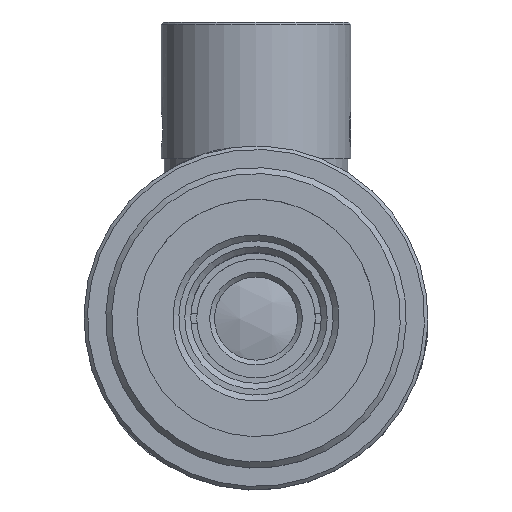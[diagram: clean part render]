
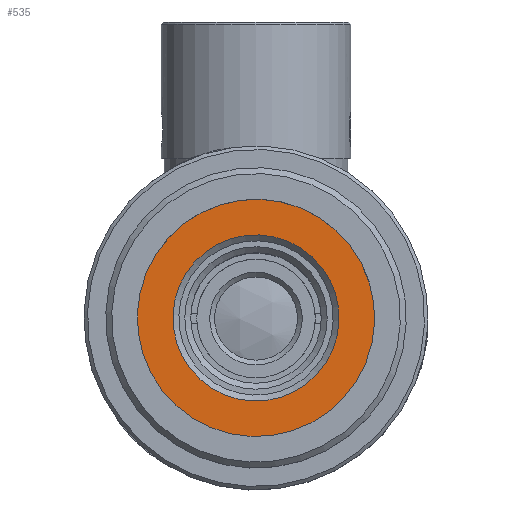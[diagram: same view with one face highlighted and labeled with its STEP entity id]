
A CAD part, top view. The second image highlights one B-rep face of the part: STEP entity #535.
In plain terms, the highlighted planar face has unit normal (0, 0, 1).
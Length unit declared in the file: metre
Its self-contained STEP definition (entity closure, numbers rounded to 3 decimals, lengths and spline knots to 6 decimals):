
#535=ADVANCED_FACE('NONE',(#1442,#1443),#1444,.F.);
#1442=FACE_BOUND('',#2889,.T.);
#1443=FACE_OUTER_BOUND('',#2890,.T.);
#1444=PLANE('',#2891);
#2889=EDGE_LOOP('',(#4617));
#2890=EDGE_LOOP('',(#4618));
#2891=AXIS2_PLACEMENT_3D('',#4619,#4620,#4621);
#4617=ORIENTED_EDGE('',*,*,#7369,.T.);
#4618=ORIENTED_EDGE('',*,*,#7383,.F.);
#4619=CARTESIAN_POINT('',(0.001041,0.00652,0.0559));
#4620=DIRECTION('',(0.,0.0,-1.0));
#4621=DIRECTION('',(-1.0,0.0,0.));
#7369=EDGE_CURVE('NONE',#8538,#8538,#8539,.T.);
#7383=EDGE_CURVE('NONE',#8561,#8561,#8562,.T.);
#8538=VERTEX_POINT('',#10366);
#8539=CIRCLE('',#10367,0.007);
#8561=VERTEX_POINT('',#10389);
#8562=CIRCLE('',#10390,0.01);
#10366=CARTESIAN_POINT('',(-0.010871,0.003857,0.0559));
#10367=AXIS2_PLACEMENT_3D('',#12753,#12754,#12755);
#10389=CARTESIAN_POINT('',(-0.013086,0.00588,0.0559));
#10390=AXIS2_PLACEMENT_3D('',#12780,#12781,#12782);
#12753=CARTESIAN_POINT('',(-0.005702,-0.000864,0.0559));
#12754=DIRECTION('',(0.,0.,-1.0));
#12755=DIRECTION('',(-0.738,0.674,0.));
#12780=CARTESIAN_POINT('',(-0.005702,-0.000864,0.0559));
#12781=DIRECTION('',(0.,0.,-1.0));
#12782=DIRECTION('',(-0.738,0.674,0.));
